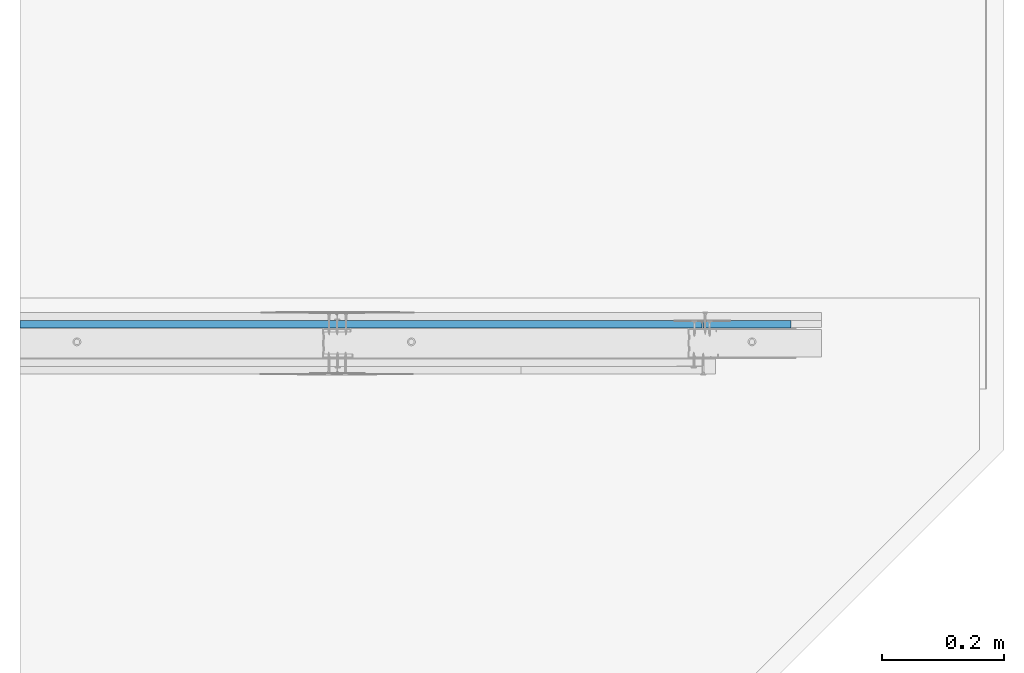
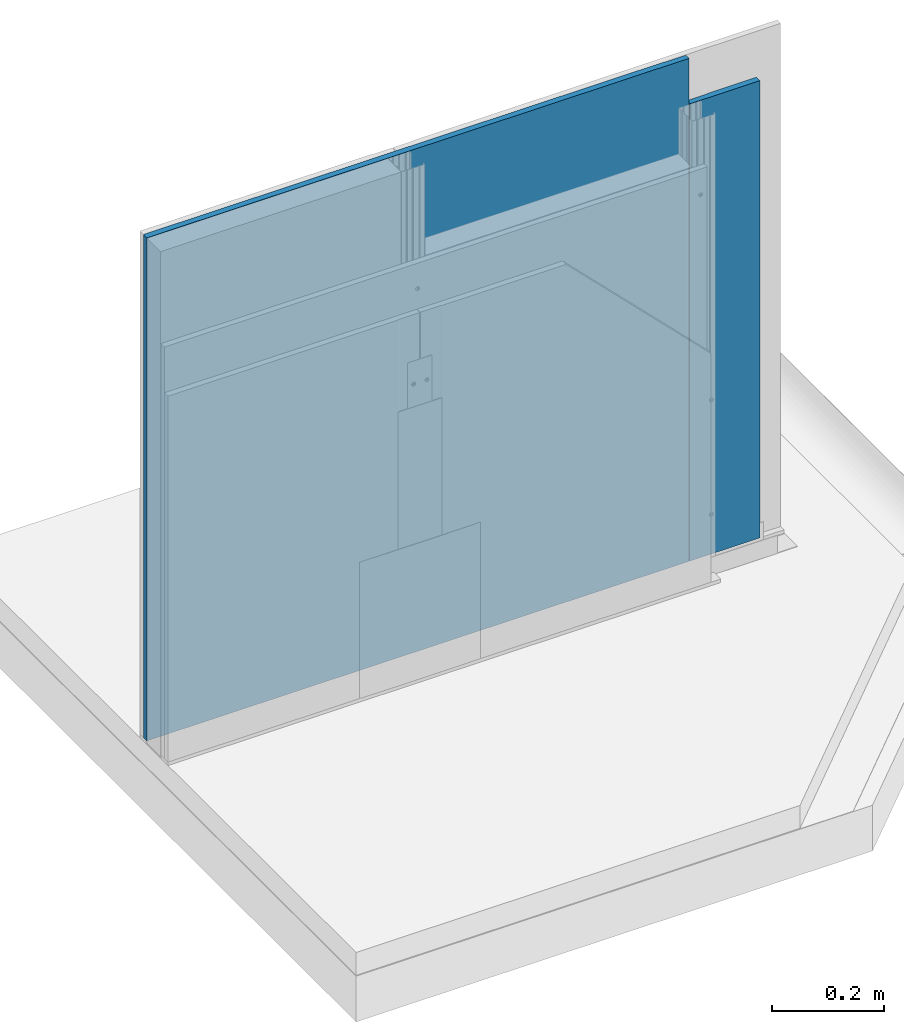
# One storey, part 3 of 37: 2 walls.
"""IFC2X3 building model written with IfcOpenShell, lengths in millimetres."""

from ifc_helpers import new_model, entity, si_unit, converted_unit, direction, frame, origin, origin_with_axes, place, context, project, spatial, faceted_brep, element, save


model = new_model("IFC2X3")

# Units and contexts
model_context = context("Model", 3, precision=1e-05, world=origin(), true_north=direction((0.0, 1.0, 0.0)))
ifc_project = project(units=[si_unit("LENGTHUNIT", "METRE", prefix="MILLI"), si_unit("AREAUNIT", "SQUARE_METRE"), si_unit("VOLUMEUNIT", "CUBIC_METRE"), converted_unit("PLANEANGLEUNIT", "DEGREE", entity("IfcPlaneAngleMeasure", 0.01745), si_unit("PLANEANGLEUNIT", "RADIAN"), dimensions=[0, 0, 0, 0, 0, 0, 0]), si_unit("SOLIDANGLEUNIT", "STERADIAN"), si_unit("MASSUNIT", "GRAM"), si_unit("TIMEUNIT", "SECOND"), si_unit("THERMODYNAMICTEMPERATUREUNIT", "DEGREE_CELSIUS"), si_unit("LUMINOUSINTENSITYUNIT", "LUMEN")], contexts=[model_context])

# Site, building, storey
site_placement = place(None, origin_with_axes())
site = spatial("IfcSite", under=ifc_project, at=site_placement, Name="Default Site", CompositionType="ELEMENT")
building_placement = place(site_placement, origin_with_axes())
building = spatial("IfcBuilding", under=site, at=building_placement, Name="Default Building", CompositionType="ELEMENT")
storey_placement = place(building_placement, origin_with_axes())
storey = spatial("IfcBuildingStorey", under=building, at=storey_placement, Name="Default Building Storey", CompositionType="ELEMENT", Elevation=0.0)

# Walls
wall_1_placement = place(storey_placement, frame((3247.843862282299, 2022.140922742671, 1338.777728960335), z_axis=(0.0, 0.0, 1.0), x_axis=(1.0, 0.0, 0.0)))
element("IfcWall", 1, at=wall_1_placement, inside=storey, Name="Płyta gipsowo-kartonowa RIGIPS PRO (4PRO™)", context=model_context, shape_type="Brep", body=[
    faceted_brep([(145.1967559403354, 12.49999999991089, -277.7777289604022), (145.1967559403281, -9.059988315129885e-11, -277.7777289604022), (145.1967559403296, -9.023892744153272e-11, -1277.779310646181), (145.1967559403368, 12.49999999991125, -1277.779310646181), (0.0, 0.0, -277.7777289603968), (44.99999999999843, 12.50000000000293, -277.7777289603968), (40.99999999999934, 11.50000000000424, -277.7777289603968), (0.9999999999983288, 11.5000000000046, -277.7777289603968), (0.7411809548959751, 11.46592582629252, -277.7777289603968), (0.4999999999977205, 11.3660254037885, -277.7777289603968), (0.2928932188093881, 11.20710678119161, -277.7777289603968), (0.1339745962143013, 11.00000000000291, -277.7777289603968), (0.03407417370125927, 10.7588190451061, -277.7777289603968), (-2.887645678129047e-12, 10.50000000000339, -277.7777289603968), (44.99999999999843, 12.50000000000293, -1277.779310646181), (40.99999999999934, 11.50000000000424, -1277.779310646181), (0.9999999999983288, 11.5000000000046, -1277.779310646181), (0.7411809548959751, 11.46592582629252, -1277.779310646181), (0.4999999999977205, 11.3660254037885, -1277.779310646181), (0.2928932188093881, 11.20710678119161, -1277.779310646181), (0.1339745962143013, 11.00000000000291, -1277.779310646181), (0.03407417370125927, 10.7588190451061, -1277.779310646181), (-2.887645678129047e-12, 10.50000000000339, -1277.779310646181), (0.0, 0.0, -1277.779310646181)], [[[0, 1, 2, 3]], [[4, 1, 0, 5, 6, 7, 8, 9, 10, 11, 12, 13]], [[0, 3, 14, 5]], [[6, 5, 14, 15]], [[7, 6, 15, 16]], [[8, 7, 16, 17]], [[9, 8, 17, 18]], [[10, 9, 18, 19]], [[11, 10, 19, 20]], [[12, 11, 20, 21]], [[13, 12, 21, 22]], [[4, 13, 22, 23]], [[23, 2, 1, 4]], [[14, 3, 2, 23, 22, 21, 20, 19, 18, 17, 16, 15]]]),
])
wall_2_placement = place(storey_placement, frame((3246.843862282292, 2022.140922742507, 1466.555457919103), z_axis=(0.0, 0.0, 1.0), x_axis=(-1.0, -8.049116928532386e-16, 0.0)))
element("IfcWall", 2, at=wall_2_placement, inside=storey, Name="Płyta gipsowo-kartonowa RIGIPS PRO (4PRO™)", context=model_context, shape_type="Brep", body=[
    faceted_brep([(1121.818728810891, -12.50000000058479, -305.5554579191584), (1121.818728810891, 3.609557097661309e-13, -305.5554579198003), (1121.818728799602, -3.495134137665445e-09, -1405.557039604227), (1121.818728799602, -12.50000000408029, -1405.557039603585), (44.99999999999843, -12.50000000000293, -305.5554579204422), (44.99999999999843, -12.50000000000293, -1405.557039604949), (40.99999999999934, -11.50000000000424, -305.5554579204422), (40.99999999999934, -11.50000000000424, -1405.557039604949), (0.9999999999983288, -11.5000000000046, -305.5554579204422), (0.9999999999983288, -11.5000000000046, -1405.557039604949), (0.7411809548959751, -11.46592582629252, -305.5554579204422), (0.7411809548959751, -11.46592582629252, -1405.557039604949), (0.4999999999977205, -11.3660254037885, -305.5554579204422), (0.4999999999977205, -11.3660254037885, -1405.557039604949), (0.29289321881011, -11.20710678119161, -305.5554579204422), (0.29289321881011, -11.20710678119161, -1405.557039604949), (0.1339745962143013, -11.00000000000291, -305.5554579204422), (0.1339745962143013, -11.00000000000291, -1405.557039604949), (0.03407417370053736, -10.7588190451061, -305.5554579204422), (0.03407417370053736, -10.7588190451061, -1405.557039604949), (-2.887645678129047e-12, -10.50000000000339, -305.5554579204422), (-2.887645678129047e-12, -10.50000000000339, -1405.557039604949), (0.0, 0.0, -305.5554579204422), (0.0, 0.0, -1405.557039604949)], [[[0, 1, 2, 3]], [[4, 0, 3, 5]], [[6, 4, 5, 7]], [[8, 6, 7, 9]], [[10, 8, 9, 11]], [[12, 10, 11, 13]], [[14, 12, 13, 15]], [[16, 14, 15, 17]], [[18, 16, 17, 19]], [[20, 18, 19, 21]], [[22, 20, 21, 23]], [[1, 22, 23, 2]], [[2, 23, 21, 19, 17, 15, 13, 11, 9, 7, 5, 3]], [[0, 4, 6, 8, 10, 12, 14, 16, 18, 20, 22, 1]]]),
])

save(model, "model.ifc")
